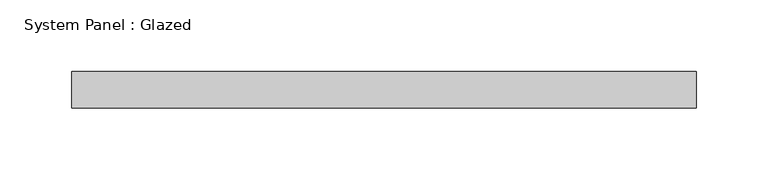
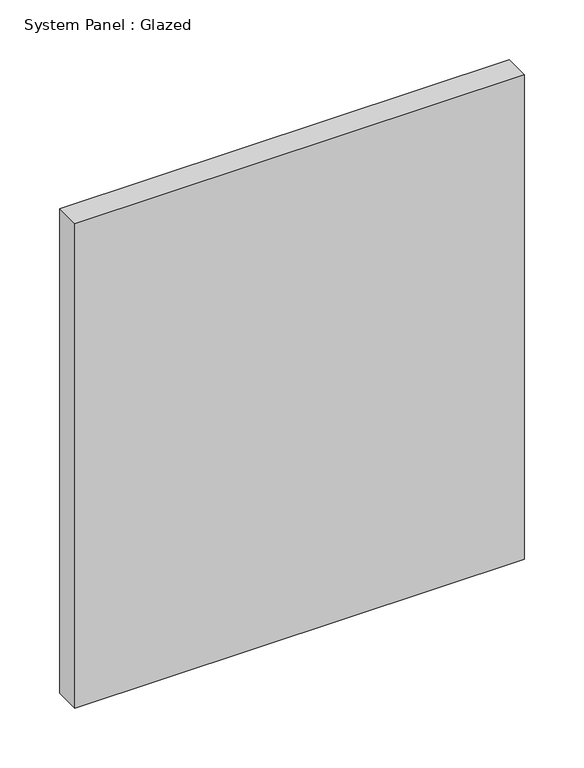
"""IFC4 building model written with IfcOpenShell, lengths in millimetres: plate geometry, System Panel : Glazed."""

from ifc_helpers import new_model, si_unit, origin, origin_with_axes, place, context, project, spatial, polyline, outline, extrude, source, transform, mapped, element, save


def system_panel_glazed_c0b9dc67(model_context):
    return source(origin(), model_context, "Body", "SweptSolid", [
        extrude(outline(polyline([(217.17, -12.7), (-217.17, -12.7), (-217.17, 12.7), (217.17, 12.7), (217.17, -12.7)])), origin_with_axes(), (0.0, 0.0, 1.0), 495.3),
    ])


if __name__ == "__main__":
    model = new_model("IFC4")
    model_context = context("Model", 3, world=origin())
    ifc_project = project(units=[si_unit("LENGTHUNIT", "METRE", prefix="MILLI")], contexts=[model_context])
    site = spatial("IfcSite", under=ifc_project)
    building = spatial("IfcBuilding", under=site)
    placement = place(None, origin())
    system_panel_glazed_shape = system_panel_glazed_c0b9dc67(model_context)
    element("IfcPlate", 1, ObjectType="System Panel : Glazed", at=placement, inside=building, context=model_context, shape_type="MappedRepresentation", body=[
        mapped(system_panel_glazed_shape, transform((0.0, 0.0, 0.0), x_axis=(1.0, 0.0, 0.0), y_axis=(0.0, 1.0, 0.0), z_axis=(0.0, 0.0, 1.0))),
    ])
    save(model, "model.ifc")
